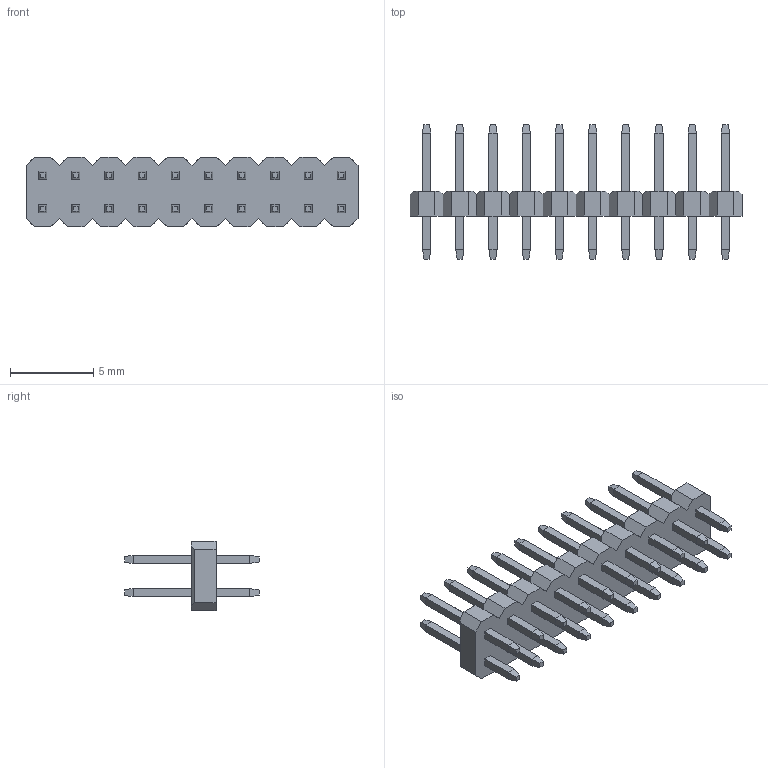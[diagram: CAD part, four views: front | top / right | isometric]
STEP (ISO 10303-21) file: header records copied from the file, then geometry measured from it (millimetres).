
FILE_DESCRIPTION (( 'STEP AP214' ), '1' );
FILE_NAME ('PLD2-20.STEP', '2011-05-17T11:08:08', ( 'vpeshkov' ), ( 'licard' ), 'SwSTEP 2.0', 'SolidWorks 2009', '' );
FILE_SCHEMA (( 'AUTOMOTIVE_DESIGN' ));
Length unit declared in the file: millimetre
Products named in the file (1): PLD2-20
Bounding box: 20 x 8.1 x 4.2 mm (x, y, z)
Volume: 148.4 mm3; surface area: 493.6 mm2
Topology: 1 solids, 1 shells, 453 faces, 1055 edges, 644 vertices
Faces by surface type: plane 453
Entity records: 16379 total; most frequent: CARTESIAN_POINT 2153, ORIENTED_EDGE 2110, DIRECTION 1963, VECTOR 1055, LINE 1055, EDGE_CURVE 1055, VERTEX_POINT 644, EDGE_LOOP 493
